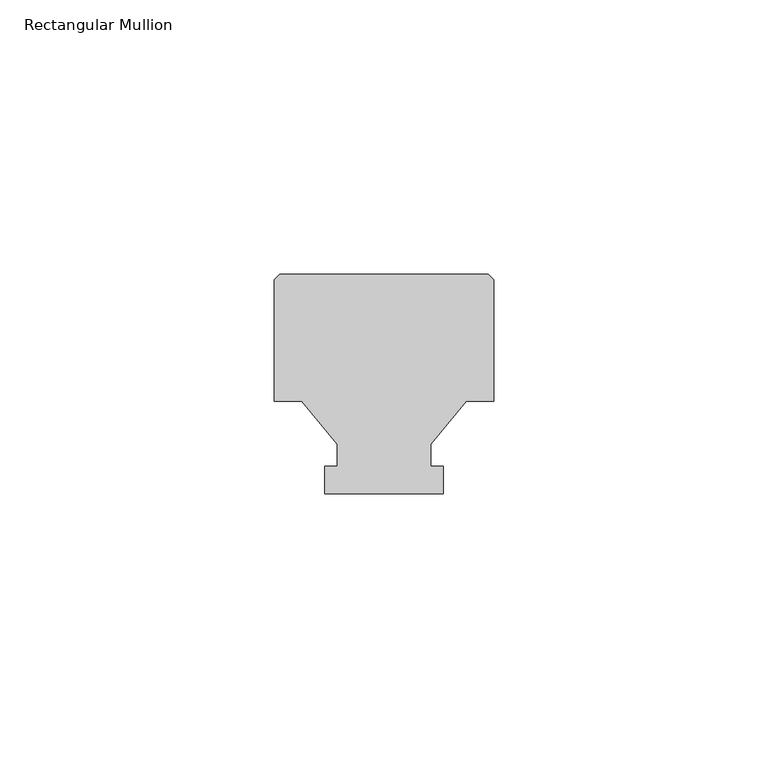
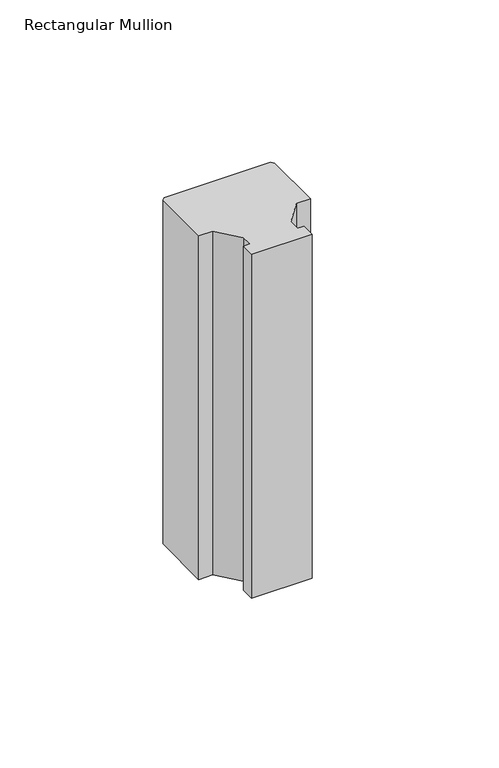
"""IFC4 building model written with IfcOpenShell, lengths in millimetres: member geometry, Rectangular Mullion : Batten_Timber_Modinex_Austratus_Grid_Fin_40x40_Ironbark."""

from ifc_helpers import new_model, si_unit, frame, origin, place, context, project, spatial, polyline, outline, extrude, source, transform, mapped, element, save


def rectangular_mullion_9dd8d0e9(model_context):
    return source(origin(), model_context, "Body", "SweptSolid", [
        extrude(outline(polyline([(-40.0, 16.8079815), (-40.0, 39.0), (-39.0, 40.0), (-1.0, 40.0), (0.0, 39.0), (0.0, 16.8079815), (-5.0, 16.8079815), (-11.5, 9.0), (-11.5, 5.0), (-9.187805, 5.0), (-9.187805, 0.0), (-30.812195, 0.0), (-30.812195, 5.0), (-28.5, 5.0), (-28.5, 9.0), (-35.0, 16.8079815), (-40.0, 16.8079815)])), frame((0.0, 0.0, -130.0), z_axis=(0.0, 0.0, 1.0), x_axis=(1.0, 0.0, 0.0)), (0.0, 0.0, 1.0), 130.0),
    ])


if __name__ == "__main__":
    model = new_model("IFC4")
    model_context = context("Model", 3, world=origin())
    ifc_project = project(units=[si_unit("LENGTHUNIT", "METRE", prefix="MILLI")], contexts=[model_context])
    site = spatial("IfcSite", under=ifc_project)
    building = spatial("IfcBuilding", under=site)
    placement = place(None, origin())
    rectangular_mullion_shape = rectangular_mullion_9dd8d0e9(model_context)
    element("IfcMember", 1, ObjectType="Rectangular Mullion : Batten_Timber_Modinex_Austratus_Grid_Fin_40x40_Ironbark", at=placement, inside=building, context=model_context, shape_type="MappedRepresentation", body=[
        mapped(rectangular_mullion_shape, transform((0.0, 0.0, 0.0), x_axis=(1.0, 0.0, 0.0), y_axis=(0.0, 1.0, 0.0), z_axis=(0.0, 0.0, 1.0))),
    ])
    save(model, "model.ifc")
